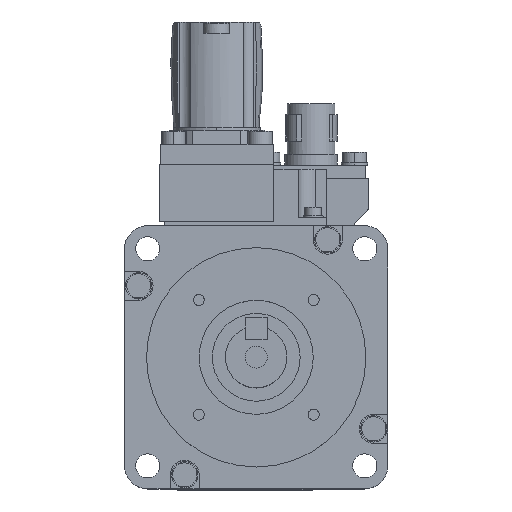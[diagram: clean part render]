
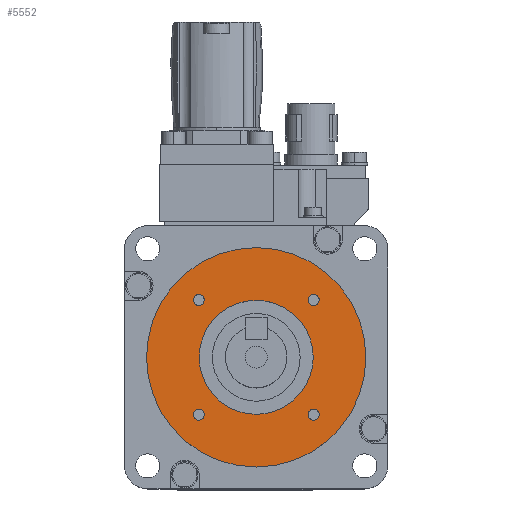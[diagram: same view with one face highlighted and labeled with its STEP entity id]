
A CAD part, top view. The second image highlights one B-rep face of the part: STEP entity #5552.
In plain terms, the highlighted planar face has unit normal (0, 0, 1).
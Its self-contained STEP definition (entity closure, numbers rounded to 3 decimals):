
#740 = CARTESIAN_POINT ( 'NONE',  ( -11.831, -13.081, 3. ) ) ;
#747 = DIRECTION ( 'NONE',  ( -1., 0., 0. ) ) ;
#748 = DIRECTION ( 'NONE',  ( 0., 0., 1. ) ) ;
#749 = CARTESIAN_POINT ( 'NONE',  ( -13.081, -13.081, 3. ) ) ;
#750 = AXIS2_PLACEMENT_3D ( 'NONE', #749, #748, #747 ) ;
#751 = CIRCLE ( 'NONE', #750, 1.25 ) ;
#781 = CARTESIAN_POINT ( 'NONE',  ( 14.331, -13.081, 3. ) ) ;
#803 = CARTESIAN_POINT ( 'NONE',  ( -14.331, -13.081, 3. ) ) ;
#821 = CARTESIAN_POINT ( 'NONE',  ( 11.831, -13.081, 3. ) ) ;
#828 = DIRECTION ( 'NONE',  ( 0., -1., 0. ) ) ;
#829 = DIRECTION ( 'NONE',  ( 0., 0., 1. ) ) ;
#830 = CARTESIAN_POINT ( 'NONE',  ( 13.081, -13.081, 3. ) ) ;
#831 = AXIS2_PLACEMENT_3D ( 'NONE', #830, #829, #828 ) ;
#832 = CIRCLE ( 'NONE', #831, 1.25 ) ;
#1493 = VERTEX_POINT ( 'NONE', #9105 ) ;
#1509 = EDGE_CURVE ( 'NONE', #1512, #1510, #9140, .T. ) ;
#1510 = VERTEX_POINT ( 'NONE', #9135 ) ;
#1512 = VERTEX_POINT ( 'NONE', #9134 ) ;
#1560 = EDGE_CURVE ( 'NONE', #1493, #1561, #9236, .T. ) ;
#1561 = VERTEX_POINT ( 'NONE', #9232 ) ;
#1669 = EDGE_CURVE ( 'NONE', #1670, #1671, #9459, .T. ) ;
#1670 = VERTEX_POINT ( 'NONE', #9455 ) ;
#1671 = VERTEX_POINT ( 'NONE', #9454 ) ;
#1686 = EDGE_CURVE ( 'NONE', #1687, #1688, #9493, .T. ) ;
#1687 = VERTEX_POINT ( 'NONE', #9488 ) ;
#1688 = VERTEX_POINT ( 'NONE', #9487 ) ;
#5518 = ORIENTED_EDGE ( 'NONE', *, *, #1560, .F. ) ;
#5519 = EDGE_LOOP ( 'NONE', ( #5520, #5522 ) ) ;
#5520 = ORIENTED_EDGE ( 'NONE', *, *, #5521, .T. ) ;
#5521 = EDGE_CURVE ( 'NONE', #1688, #1687, #16479, .T. ) ;
#5522 = ORIENTED_EDGE ( 'NONE', *, *, #1686, .T. ) ;
#5523 = EDGE_LOOP ( 'NONE', ( #5524, #5525 ) ) ;
#5524 = ORIENTED_EDGE ( 'NONE', *, *, #1669, .F. ) ;
#5525 = ORIENTED_EDGE ( 'NONE', *, *, #5526, .F. ) ;
#5526 = EDGE_CURVE ( 'NONE', #1671, #1670, #16474, .T. ) ;
#5530 = ORIENTED_EDGE ( 'NONE', *, *, #5531, .F. ) ;
#5531 = EDGE_CURVE ( 'NONE', #22148, #22161, #16467, .T. ) ;
#5532 = ORIENTED_EDGE ( 'NONE', *, *, #22154, .F. ) ;
#5533 = EDGE_LOOP ( 'NONE', ( #5534, #5536 ) ) ;
#5534 = ORIENTED_EDGE ( 'NONE', *, *, #5535, .F. ) ;
#5535 = EDGE_CURVE ( 'NONE', #22131, #22134, #16523, .T. ) ;
#5536 = ORIENTED_EDGE ( 'NONE', *, *, #22128, .F. ) ;
#5537 = EDGE_LOOP ( 'NONE', ( #5538, #5540 ) ) ;
#5538 = ORIENTED_EDGE ( 'NONE', *, *, #5539, .F. ) ;
#5539 = EDGE_CURVE ( 'NONE', #1510, #1512, #16518, .T. ) ;
#5540 = ORIENTED_EDGE ( 'NONE', *, *, #1509, .F. ) ;
#5541 = EDGE_LOOP ( 'NONE', ( #5595, #5518 ) ) ;
#5552 = ADVANCED_FACE ( 'NONE', ( #16502, #16501, #16500, #16499, #16498, #16497 ), #16496, .T. ) ;
#5553 = EDGE_LOOP ( 'NONE', ( #5530, #5532 ) ) ;
#5595 = ORIENTED_EDGE ( 'NONE', *, *, #5596, .F. ) ;
#5596 = EDGE_CURVE ( 'NONE', #1561, #1493, #16567, .T. ) ;
#9105 = CARTESIAN_POINT ( 'NONE',  ( 11.831, 13.081, 3. ) ) ;
#9134 = CARTESIAN_POINT ( 'NONE',  ( -14.331, 13.081, 3. ) ) ;
#9135 = CARTESIAN_POINT ( 'NONE',  ( -11.831, 13.081, 3. ) ) ;
#9136 = DIRECTION ( 'NONE',  ( 0., 1., 0. ) ) ;
#9137 = DIRECTION ( 'NONE',  ( 0., 0., 1. ) ) ;
#9138 = CARTESIAN_POINT ( 'NONE',  ( -13.081, 13.081, 3. ) ) ;
#9139 = AXIS2_PLACEMENT_3D ( 'NONE', #9138, #9137, #9136 ) ;
#9140 = CIRCLE ( 'NONE', #9139, 1.25 ) ;
#9232 = CARTESIAN_POINT ( 'NONE',  ( 14.331, 13.081, 3. ) ) ;
#9233 = DIRECTION ( 'NONE',  ( 1., 0., 0. ) ) ;
#9234 = DIRECTION ( 'NONE',  ( 0., 0., 1. ) ) ;
#9235 = AXIS2_PLACEMENT_3D ( 'NONE', #9242, #9234, #9233 ) ;
#9236 = CIRCLE ( 'NONE', #9235, 1.25 ) ;
#9242 = CARTESIAN_POINT ( 'NONE',  ( 13.081, 13.081, 3. ) ) ;
#9454 = CARTESIAN_POINT ( 'NONE',  ( 25., 0., 3. ) ) ;
#9455 = CARTESIAN_POINT ( 'NONE',  ( -25., 0., 3. ) ) ;
#9456 = DIRECTION ( 'NONE',  ( -1., 0., 0. ) ) ;
#9457 = DIRECTION ( 'NONE',  ( 0., 0., -1. ) ) ;
#9458 = AXIS2_PLACEMENT_3D ( 'NONE', #9465, #9457, #9456 ) ;
#9459 = CIRCLE ( 'NONE', #9458, 25. ) ;
#9465 = CARTESIAN_POINT ( 'NONE',  ( 0., 0., 3. ) ) ;
#9487 = CARTESIAN_POINT ( 'NONE',  ( -13., 0., 3. ) ) ;
#9488 = CARTESIAN_POINT ( 'NONE',  ( 13., 0., 3. ) ) ;
#9489 = DIRECTION ( 'NONE',  ( -1., 0., 0. ) ) ;
#9490 = DIRECTION ( 'NONE',  ( 0., 0., -1. ) ) ;
#9491 = CARTESIAN_POINT ( 'NONE',  ( 0., 0., 3. ) ) ;
#9492 = AXIS2_PLACEMENT_3D ( 'NONE', #9491, #9490, #9489 ) ;
#9493 = CIRCLE ( 'NONE', #9492, 13. ) ;
#16467 = CIRCLE ( 'NONE', #16527, 1.25 ) ;
#16470 = DIRECTION ( 'NONE',  ( -1., 0., 0. ) ) ;
#16471 = DIRECTION ( 'NONE',  ( 0., 0., -1. ) ) ;
#16472 = CARTESIAN_POINT ( 'NONE',  ( 0., 0., 3. ) ) ;
#16473 = AXIS2_PLACEMENT_3D ( 'NONE', #16472, #16471, #16470 ) ;
#16474 = CIRCLE ( 'NONE', #16473, 25. ) ;
#16475 = DIRECTION ( 'NONE',  ( -1., 0., 0. ) ) ;
#16476 = DIRECTION ( 'NONE',  ( 0., 0., -1. ) ) ;
#16477 = CARTESIAN_POINT ( 'NONE',  ( 0., 0., 3. ) ) ;
#16478 = AXIS2_PLACEMENT_3D ( 'NONE', #16477, #16476, #16475 ) ;
#16479 = CIRCLE ( 'NONE', #16478, 13. ) ;
#16496 = PLANE ( 'NONE',  #16560 ) ;
#16497 = FACE_OUTER_BOUND ( 'NONE', #5523, .T. ) ;
#16498 = FACE_BOUND ( 'NONE', #5519, .T. ) ;
#16499 = FACE_BOUND ( 'NONE', #5541, .T. ) ;
#16500 = FACE_BOUND ( 'NONE', #5537, .T. ) ;
#16501 = FACE_BOUND ( 'NONE', #5533, .T. ) ;
#16502 = FACE_BOUND ( 'NONE', #5553, .T. ) ;
#16514 = DIRECTION ( 'NONE',  ( 0., 1., 0. ) ) ;
#16515 = DIRECTION ( 'NONE',  ( 0., 0., 1. ) ) ;
#16516 = CARTESIAN_POINT ( 'NONE',  ( -13.081, 13.081, 3. ) ) ;
#16517 = AXIS2_PLACEMENT_3D ( 'NONE', #16516, #16515, #16514 ) ;
#16518 = CIRCLE ( 'NONE', #16517, 1.25 ) ;
#16519 = DIRECTION ( 'NONE',  ( -1., 0., 0. ) ) ;
#16520 = DIRECTION ( 'NONE',  ( 0., 0., 1. ) ) ;
#16521 = CARTESIAN_POINT ( 'NONE',  ( -13.081, -13.081, 3. ) ) ;
#16522 = AXIS2_PLACEMENT_3D ( 'NONE', #16521, #16520, #16519 ) ;
#16523 = CIRCLE ( 'NONE', #16522, 1.25 ) ;
#16524 = DIRECTION ( 'NONE',  ( 0., -1., 0. ) ) ;
#16525 = DIRECTION ( 'NONE',  ( 0., 0., 1. ) ) ;
#16526 = CARTESIAN_POINT ( 'NONE',  ( 13.081, -13.081, 3. ) ) ;
#16527 = AXIS2_PLACEMENT_3D ( 'NONE', #16526, #16525, #16524 ) ;
#16557 = DIRECTION ( 'NONE',  ( 1., 0., 0. ) ) ;
#16558 = DIRECTION ( 'NONE',  ( 0., 0., 1. ) ) ;
#16559 = CARTESIAN_POINT ( 'NONE',  ( 0., 25., 3. ) ) ;
#16560 = AXIS2_PLACEMENT_3D ( 'NONE', #16559, #16558, #16557 ) ;
#16563 = DIRECTION ( 'NONE',  ( 1., 0., 0. ) ) ;
#16564 = DIRECTION ( 'NONE',  ( 0., 0., 1. ) ) ;
#16565 = CARTESIAN_POINT ( 'NONE',  ( 13.081, 13.081, 3. ) ) ;
#16566 = AXIS2_PLACEMENT_3D ( 'NONE', #16565, #16564, #16563 ) ;
#16567 = CIRCLE ( 'NONE', #16566, 1.25 ) ;
#22128 = EDGE_CURVE ( 'NONE', #22134, #22131, #751, .T. ) ;
#22131 = VERTEX_POINT ( 'NONE', #740 ) ;
#22134 = VERTEX_POINT ( 'NONE', #803 ) ;
#22148 = VERTEX_POINT ( 'NONE', #781 ) ;
#22154 = EDGE_CURVE ( 'NONE', #22161, #22148, #832, .T. ) ;
#22161 = VERTEX_POINT ( 'NONE', #821 ) ;
